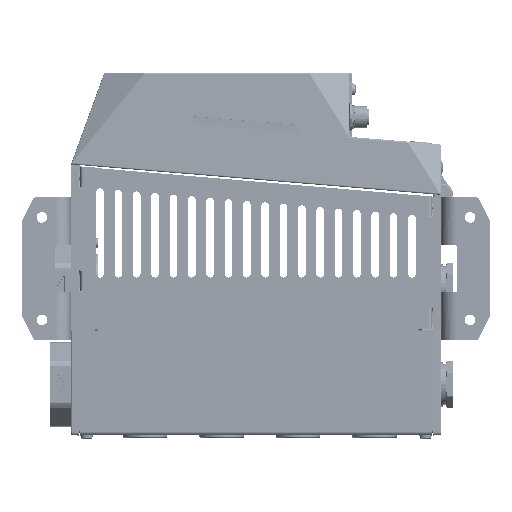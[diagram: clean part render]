
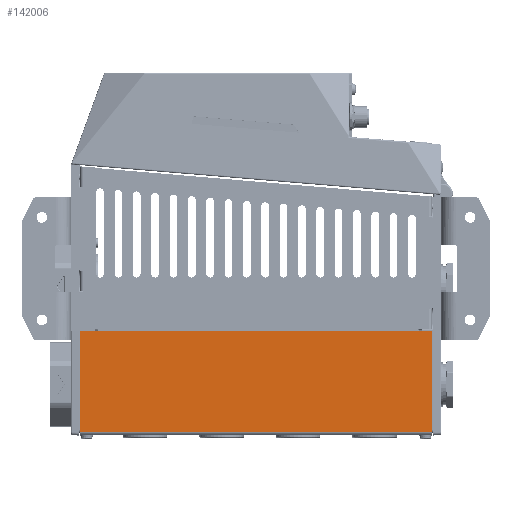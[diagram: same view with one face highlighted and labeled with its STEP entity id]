
A CAD part, left-side view. The second image highlights one B-rep face of the part: STEP entity #142006.
In plain terms, the highlighted planar face has unit normal (-1, 0, 0) as drawn and (0, -1, 0) by its records, which use the part's own axes.
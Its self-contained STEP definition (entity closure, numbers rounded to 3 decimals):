
#8659 = EDGE_CURVE ( 'NONE', #125001, #107335, #285620, .T. ) ;
#8814 = DIRECTION ( 'NONE',  ( 1., 0., 0. ) ) ;
#10696 = LINE ( 'NONE', #199702, #265854 ) ;
#10861 = CARTESIAN_POINT ( 'NONE',  ( 67., -84., -115. ) ) ;
#29976 = VECTOR ( 'NONE', #8814, 1000. ) ;
#46466 = AXIS2_PLACEMENT_3D ( 'NONE', #86649, #192474, #228619 ) ;
#48162 = CARTESIAN_POINT ( 'NONE',  ( 68., -84., 115. ) ) ;
#52618 = ORIENTED_EDGE ( 'NONE', *, *, #219613, .F. ) ;
#54757 = DIRECTION ( 'NONE',  ( -1., 0., 0. ) ) ;
#57146 = ORIENTED_EDGE ( 'NONE', *, *, #190942, .T. ) ;
#58657 = CARTESIAN_POINT ( 'NONE',  ( 68., -84., -114. ) ) ;
#64784 = EDGE_CURVE ( 'NONE', #107335, #66669, #306372, .T. ) ;
#66669 = VERTEX_POINT ( 'NONE', #10861 ) ;
#75845 = DIRECTION ( 'NONE',  ( 0., 0., -1. ) ) ;
#86583 = CARTESIAN_POINT ( 'NONE',  ( 68., -84., 114. ) ) ;
#86649 = CARTESIAN_POINT ( 'NONE',  ( 67., -84., 114. ) ) ;
#86840 = CARTESIAN_POINT ( 'NONE',  ( 0., -84., 115. ) ) ;
#87009 = ORIENTED_EDGE ( 'NONE', *, *, #8659, .F. ) ;
#88423 = DIRECTION ( 'NONE',  ( 1., 0., 0. ) ) ;
#89489 = PLANE ( 'NONE',  #173418 ) ;
#90884 = ORIENTED_EDGE ( 'NONE', *, *, #64784, .F. ) ;
#92874 = CARTESIAN_POINT ( 'NONE',  ( 0., -84., 115. ) ) ;
#107335 = VERTEX_POINT ( 'NONE', #58657 ) ;
#109472 = CARTESIAN_POINT ( 'NONE',  ( 2., -84., -115. ) ) ;
#113635 = CARTESIAN_POINT ( 'NONE',  ( 2., -84., 115. ) ) ;
#125001 = VERTEX_POINT ( 'NONE', #86583 ) ;
#142006 = ADVANCED_FACE ( 'NONE', ( #280015 ), #89489, .T. ) ;
#143187 = DIRECTION ( 'NONE',  ( 0., -1., 0. ) ) ;
#158165 = VERTEX_POINT ( 'NONE', #109472 ) ;
#162306 = VERTEX_POINT ( 'NONE', #224399 ) ;
#169787 = LINE ( 'NONE', #325764, #256325 ) ;
#173418 = AXIS2_PLACEMENT_3D ( 'NONE', #92874, #143187, #195231 ) ;
#177165 = VECTOR ( 'NONE', #75845, 1000. ) ;
#190942 = EDGE_CURVE ( 'NONE', #158165, #66669, #169787, .T. ) ;
#192474 = DIRECTION ( 'NONE',  ( 0., 1., 0. ) ) ;
#195231 = DIRECTION ( 'NONE',  ( -1., 0., 0. ) ) ;
#197923 = DIRECTION ( 'NONE',  ( 0., 0., -1. ) ) ;
#199702 = CARTESIAN_POINT ( 'NONE',  ( 2., -84., 115. ) ) ;
#205062 = ORIENTED_EDGE ( 'NONE', *, *, #249475, .T. ) ;
#207764 = ORIENTED_EDGE ( 'NONE', *, *, #222226, .F. ) ;
#219613 = EDGE_CURVE ( 'NONE', #162306, #125001, #273581, .T. ) ;
#222226 = EDGE_CURVE ( 'NONE', #323847, #162306, #256089, .T. ) ;
#224399 = CARTESIAN_POINT ( 'NONE',  ( 67., -84., 115. ) ) ;
#228619 = DIRECTION ( 'NONE',  ( -1., 0., 0. ) ) ;
#249475 = EDGE_CURVE ( 'NONE', #323847, #158165, #10696, .T. ) ;
#256089 = LINE ( 'NONE', #86840, #29976 ) ;
#256325 = VECTOR ( 'NONE', #88423, 1000. ) ;
#265854 = VECTOR ( 'NONE', #197923, 1000. ) ;
#269689 = DIRECTION ( 'NONE',  ( 0., 1., 0. ) ) ;
#273581 = CIRCLE ( 'NONE', #46466, 1. ) ;
#280015 = FACE_OUTER_BOUND ( 'NONE', #336285, .T. ) ;
#285620 = LINE ( 'NONE', #48162, #177165 ) ;
#289884 = AXIS2_PLACEMENT_3D ( 'NONE', #325041, #269689, #54757 ) ;
#306372 = CIRCLE ( 'NONE', #289884, 1. ) ;
#323847 = VERTEX_POINT ( 'NONE', #113635 ) ;
#325041 = CARTESIAN_POINT ( 'NONE',  ( 67., -84., -114. ) ) ;
#325764 = CARTESIAN_POINT ( 'NONE',  ( 0., -84., -115. ) ) ;
#336285 = EDGE_LOOP ( 'NONE', ( #87009, #52618, #207764, #205062, #57146, #90884 ) ) ;
